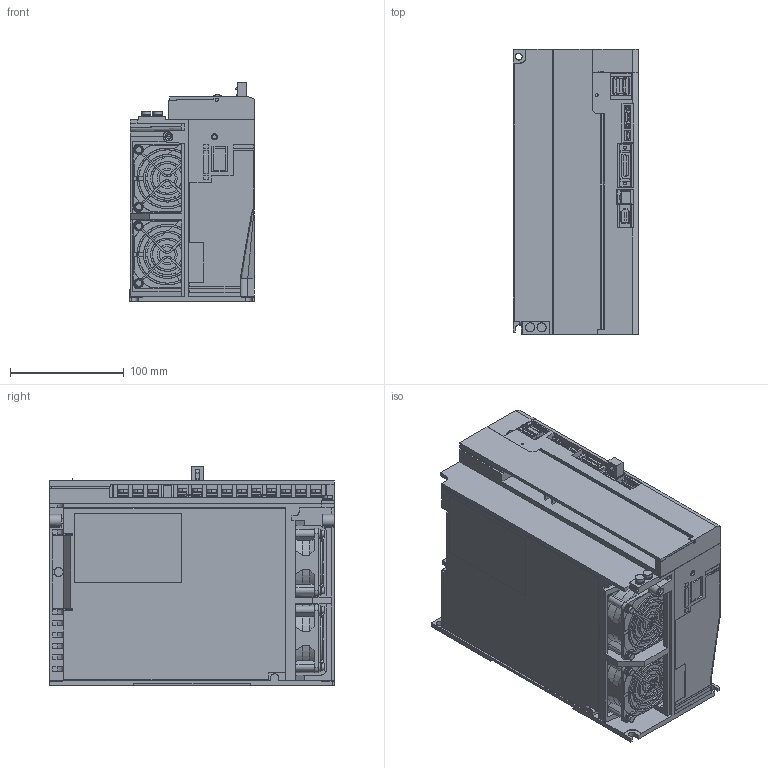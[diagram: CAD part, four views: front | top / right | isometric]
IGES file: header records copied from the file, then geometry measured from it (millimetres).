
Start section: SolidWorks IGES file using analytic representation for surfaces
Global section: file name: C:\YASKAWA\sgdv_8r4d1_a.IGS; native system: SolidWorks 2006 by SolidWorks Corporation; preprocessor: SolidWorks 2006 by SolidWorks Corporation; author: yamanouchi; date: 080617.173441; units: millimetre
Bounding box: 110.5 x 250 x 193 mm (x, y, z)
Surface area: 306038.9 mm2 (no closed solid volume)
Topology: 0 solids, 0 shells, 2411 faces, 24061 edges, 24061 vertices
Faces by surface type: bspline 1956, revolution 455
